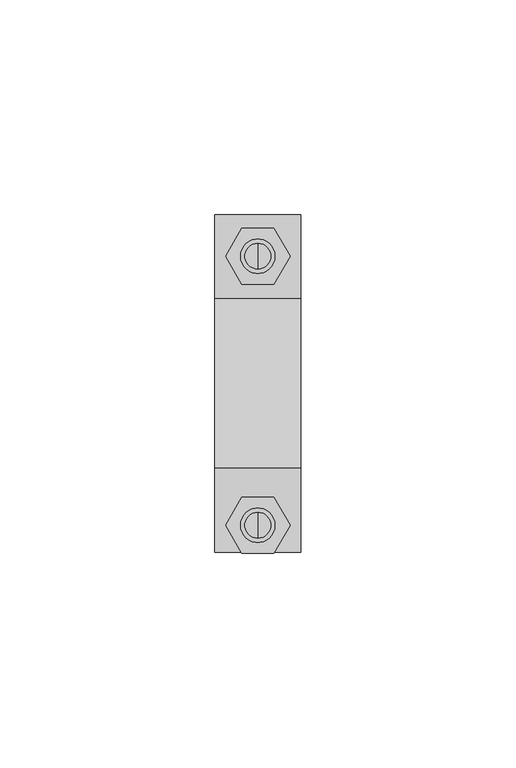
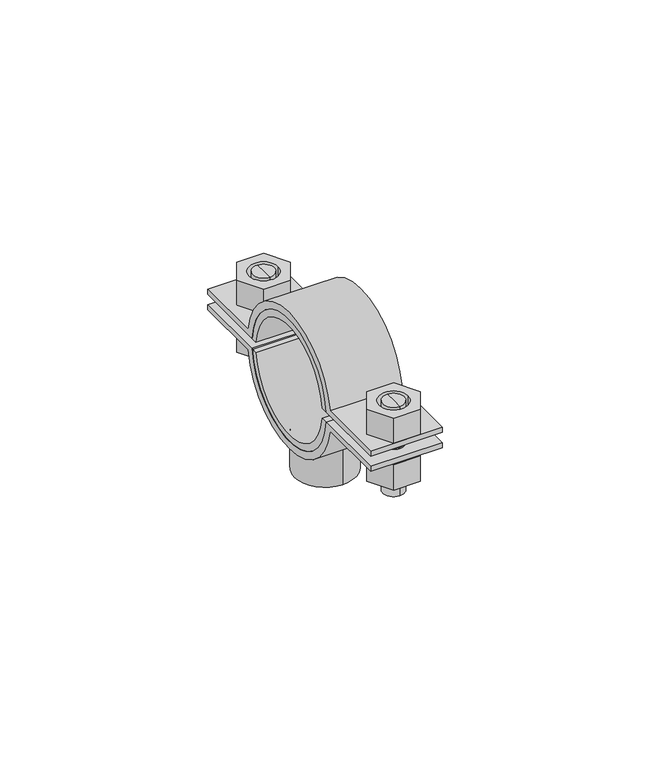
"""IFC4 building model written with IfcOpenShell, lengths in millimetres: valve geometry, Superfix DG2 Clamp Extra : Superfix DG2 Clamp Extra."""

from ifc_helpers import new_model, si_unit, point, frame, frame_2d, origin, origin_2d, place, context, project, spatial, polyline, circle_curve, trimmed, segment, composite_curve, outline, extrude, source, transform, mapped, element, save
from ifc_brep_helpers import plane_surface, cylinder_surface, advanced_brep


def valve_55d09bba(model_context):
    return source(origin(), model_context, "Body", "SolidModel", [
        advanced_brep(
        [(0.0, 32.625, 334.4), (0.0, 26.625, 334.4), (0.0, 26.625, 348.5), (0.0, 32.625, 348.5), (0.0, 29.625, 334.4)],
        [
            (0, 1, circle_curve(frame((0.0, 29.625, 334.4), z_axis=(0.0, 0.0, 1.0), x_axis=(0.0, 1.0, 0.0)), 3.0)),
            (1, 2),
            (2, 3, circle_curve(frame((0.0, 29.625, 348.5), z_axis=(0.0, 0.0, -1.0), x_axis=(0.0, 1.0, 0.0)), 3.0)),
            (3, 0),
            (1, 0, circle_curve(frame((0.0, 29.625, 334.4), z_axis=(0.0, 0.0, 1.0), x_axis=(0.0, 1.0, 0.0)), 3.0)),
            (3, 2, circle_curve(frame((0.0, 29.625, 348.5), z_axis=(0.0, 0.0, -1.0), x_axis=(0.0, 1.0, 0.0)), 3.0)),
            (0, 4),
            (4, 1),
        ],
        [
            cylinder_surface(frame((0.0, 29.625, 348.2806094), z_axis=(0.0, 0.0, 1.0), x_axis=(0.0, 1.0, 0.0)), 3.0),
            plane_surface(frame((0.0, 29.625, 334.4), z_axis=(0.0, 0.0, -1.0), x_axis=(0.0, 1.0, 0.0))),
            plane_surface(frame((13.75, -39.25, 348.5), z_axis=(0.0, 0.0, 1.0), x_axis=(-1.0, 0.0, 0.0))),
        ],
        [
            (0, [[1, 2, 3, 4]]),
            (0, [[5, -4, 6, -2]]),
            (1, [[-1, 7, 8]]),
            (1, [[-5, -8, -7]]),
            (2, [[-3, -6]]),
        ],
    ),
        advanced_brep(
        [(0.0, 26.625, 360.6), (0.0, 32.625, 360.6), (0.0, 32.625, 351.5), (0.0, 26.625, 351.5), (0.0, 29.625, 360.6)],
        [
            (0, 1, circle_curve(frame((0.0, 29.625, 360.6), z_axis=(0.0, 0.0, -1.0), x_axis=(0.0, 1.0, 0.0)), 3.0)),
            (1, 2),
            (2, 3, circle_curve(frame((0.0, 29.625, 351.5), z_axis=(0.0, 0.0, 1.0), x_axis=(0.0, 1.0, 0.0)), 3.0)),
            (3, 0),
            (1, 0, circle_curve(frame((0.0, 29.625, 360.6), z_axis=(0.0, 0.0, -1.0), x_axis=(0.0, 1.0, 0.0)), 3.0)),
            (3, 2, circle_curve(frame((0.0, 29.625, 351.5), z_axis=(0.0, 0.0, 1.0), x_axis=(0.0, 1.0, 0.0)), 3.0)),
            (0, 4),
            (4, 1),
        ],
        [
            cylinder_surface(frame((0.0, 29.625, 348.2806094), z_axis=(0.0, 0.0, 1.0), x_axis=(0.0, 1.0, 0.0)), 3.0),
            plane_surface(frame((0.0, 29.625, 360.6), z_axis=(0.0, 0.0, 1.0), x_axis=(0.0, 1.0, 0.0))),
            plane_surface(frame((13.75, 39.25, 351.5), z_axis=(0.0, 0.0, -1.0), x_axis=(-1.0, 0.0, 0.0))),
        ],
        [
            (0, [[1, 2, 3, 4]]),
            (0, [[5, -4, 6, -2]]),
            (1, [[-1, 7, 8]]),
            (1, [[-5, -8, -7]]),
            (2, [[-3, -6]]),
        ],
    ),
        advanced_brep(
        [(0.0, -36.0, 360.6), (0.0, -30.0, 360.6), (0.0, -30.0, 351.5), (0.0, -36.0, 351.5), (0.0, -33.0, 360.6)],
        [
            (0, 1, circle_curve(frame((0.0, -33.0, 360.6), z_axis=(0.0, 0.0, -1.0), x_axis=(0.0, -1.0, 0.0)), 3.0)),
            (1, 2),
            (2, 3, circle_curve(frame((0.0, -33.0, 351.5), z_axis=(0.0, 0.0, 1.0), x_axis=(0.0, -1.0, 0.0)), 3.0)),
            (3, 0),
            (1, 0, circle_curve(frame((0.0, -33.0, 360.6), z_axis=(0.0, 0.0, -1.0), x_axis=(0.0, -1.0, 0.0)), 3.0)),
            (3, 2, circle_curve(frame((0.0, -33.0, 351.5), z_axis=(0.0, 0.0, 1.0), x_axis=(0.0, -1.0, 0.0)), 3.0)),
            (0, 4),
            (4, 1),
        ],
        [
            cylinder_surface(frame((0.0, -33.0, 348.2806094), z_axis=(0.0, 0.0, -1.0), x_axis=(0.0, -1.0, 0.0)), 3.0),
            plane_surface(frame((0.0, -33.0, 360.6), z_axis=(0.0, 0.0, 1.0), x_axis=(0.0, -1.0, 0.0))),
            plane_surface(frame((13.75, 39.25, 351.5), z_axis=(0.0, 0.0, -1.0), x_axis=(-1.0, 0.0, 0.0))),
        ],
        [
            (0, [[1, 2, 3, 4]]),
            (0, [[5, -4, 6, -2]]),
            (1, [[-1, 7, 8]]),
            (1, [[-5, -8, -7]]),
            (2, [[-3, -6]]),
        ],
    ),
        advanced_brep(
        [(0.0, -30.0, 334.4), (0.0, -36.0, 334.4), (0.0, -36.0, 348.5), (0.0, -30.0, 348.5), (0.0, -33.0, 334.4)],
        [
            (0, 1, circle_curve(frame((0.0, -33.0, 334.4), z_axis=(0.0, 0.0, 1.0), x_axis=(0.0, -1.0, 0.0)), 3.0)),
            (1, 2),
            (2, 3, circle_curve(frame((0.0, -33.0, 348.5), z_axis=(0.0, 0.0, -1.0), x_axis=(0.0, -1.0, 0.0)), 3.0)),
            (3, 0),
            (1, 0, circle_curve(frame((0.0, -33.0, 334.4), z_axis=(0.0, 0.0, 1.0), x_axis=(0.0, -1.0, 0.0)), 3.0)),
            (3, 2, circle_curve(frame((0.0, -33.0, 348.5), z_axis=(0.0, 0.0, -1.0), x_axis=(0.0, -1.0, 0.0)), 3.0)),
            (0, 4),
            (4, 1),
        ],
        [
            cylinder_surface(frame((0.0, -33.0, 348.2806094), z_axis=(0.0, 0.0, -1.0), x_axis=(0.0, -1.0, 0.0)), 3.0),
            plane_surface(frame((0.0, -33.0, 334.4), z_axis=(0.0, 0.0, -1.0), x_axis=(0.0, -1.0, 0.0))),
            plane_surface(frame((13.75, -39.25, 348.5), z_axis=(0.0, 0.0, 1.0), x_axis=(-1.0, 0.0, 0.0))),
        ],
        [
            (0, [[1, 2, 3, 4]]),
            (0, [[5, -4, 6, -2]]),
            (1, [[-1, 7, 8]]),
            (1, [[-5, -8, -7]]),
            (2, [[-3, -6]]),
        ],
    ),
        extrude(outline(composite_curve([segment(trimmed(circle_curve(frame_2d((0.0, 350.0)), 18.0), [point((-17.9373911, 348.5))], [point((17.9373911, 348.5))], True, "CARTESIAN"), True, "CONTINUOUS"), segment(polyline([(17.9373911, 348.5), (39.25, 348.5), (39.25, 347.0), (19.7737199, 347.0)]), True, "CONTINUOUS"), segment(trimmed(circle_curve(frame_2d((0.0, 350.0)), 20.0), [point((19.7737199, 347.0))], [point((-19.7737199, 347.0))], False, "CARTESIAN"), True, "CONTINUOUS"), segment(polyline([(-19.7737199, 347.0), (-39.25, 347.0), (-39.25, 348.5), (-17.9373911, 348.5)]), True, "CONTINUOUS")], self_intersect=False)), frame((-10.0, 0.0, 0.0), z_axis=(1.0, 0.0, 0.0), x_axis=(0.0, 1.0, 0.0)), (0.0, 0.0, 1.0), 20.0),
        extrude(outline(composite_curve([segment(trimmed(circle_curve(frame_2d((0.0, 350.0)), 18.0), [point((17.9373911, 351.5))], [point((-17.9373911, 351.5))], True, "CARTESIAN"), True, "CONTINUOUS"), segment(polyline([(-17.9373911, 351.5), (-39.25, 351.5), (-39.25, 353.0), (-19.7737199, 353.0)]), True, "CONTINUOUS"), segment(trimmed(circle_curve(frame_2d((0.0, 350.0)), 20.0), [point((-19.7737199, 353.0))], [point((19.7737199, 353.0))], False, "CARTESIAN"), True, "CONTINUOUS"), segment(polyline([(19.7737199, 353.0), (39.25, 353.0), (39.25, 351.5), (17.9373911, 351.5)]), True, "CONTINUOUS")], self_intersect=False)), frame((-10.0, 0.0, 0.0), z_axis=(1.0, 0.0, 0.0), x_axis=(0.0, 1.0, 0.0)), (0.0, 0.0, 1.0), 20.0),
        extrude(outline(polyline([(7.5055535, -33.0), (3.7527767, -39.5), (-3.7527767, -39.5), (-7.5055535, -33.0), (-3.7527767, -26.5), (3.7527767, -26.5), (7.5055535, -33.0)]), holes=[composite_curve([segment(trimmed(circle_curve(frame_2d((0.0, -33.0)), 4.0), [point((4.0, -33.0))], [point((-4.0, -33.0))], True, "CARTESIAN"), True, "CONTINUOUS"), segment(trimmed(circle_curve(frame_2d((0.0, -33.0)), 4.0), [point((-4.0, -33.0))], [point((4.0, -33.0))], True, "CARTESIAN"), True, "CONTINUOUS")], self_intersect=False)]), frame((0.0, 0.0, 353.0), z_axis=(0.0, 0.0, 1.0), x_axis=(1.0, 0.0, 0.0)), (0.0, 0.0, 1.0), 7.6),
        extrude(outline(polyline([(7.5055535, 29.625), (3.7527767, 23.125), (-3.7527767, 23.125), (-7.5055535, 29.625), (-3.7527767, 36.125), (3.7527767, 36.125), (7.5055535, 29.625)]), holes=[composite_curve([segment(trimmed(circle_curve(frame_2d((0.0, 29.625)), 4.0), [point((4.0, 29.625))], [point((-4.0, 29.625))], True, "CARTESIAN"), True, "CONTINUOUS"), segment(trimmed(circle_curve(frame_2d((0.0, 29.625)), 4.0), [point((-4.0, 29.625))], [point((4.0, 29.625))], True, "CARTESIAN"), True, "CONTINUOUS")], self_intersect=False)]), frame((0.0, 0.0, 353.0), z_axis=(0.0, 0.0, 1.0), x_axis=(1.0, 0.0, 0.0)), (0.0, 0.0, 1.0), 7.6),
        extrude(outline(polyline([(7.5055535, -33.0), (3.7527767, -39.5), (-3.7527767, -39.5), (-7.5055535, -33.0), (-3.7527767, -26.5), (3.7527767, -26.5), (7.5055535, -33.0)]), holes=[composite_curve([segment(trimmed(circle_curve(frame_2d((0.0, -33.0)), 4.0), [point((4.0, -33.0))], [point((-4.0, -33.0))], True, "CARTESIAN"), True, "CONTINUOUS"), segment(trimmed(circle_curve(frame_2d((0.0, -33.0)), 4.0), [point((-4.0, -33.0))], [point((4.0, -33.0))], True, "CARTESIAN"), True, "CONTINUOUS")], self_intersect=False)]), frame((0.0, 0.0, 339.4), z_axis=(0.0, 0.0, 1.0), x_axis=(1.0, 0.0, 0.0)), (0.0, 0.0, 1.0), 7.6),
        extrude(outline(polyline([(7.5055535, 29.625), (3.7527767, 23.125), (-3.7527767, 23.125), (-7.5055535, 29.625), (-3.7527767, 36.125), (3.7527767, 36.125), (7.5055535, 29.625)]), holes=[composite_curve([segment(trimmed(circle_curve(frame_2d((0.0, 29.625)), 4.0), [point((4.0, 29.625))], [point((-4.0, 29.625))], True, "CARTESIAN"), True, "CONTINUOUS"), segment(trimmed(circle_curve(frame_2d((0.0, 29.625)), 4.0), [point((-4.0, 29.625))], [point((4.0, 29.625))], True, "CARTESIAN"), True, "CONTINUOUS")], self_intersect=False)]), frame((0.0, 0.0, 339.4), z_axis=(0.0, 0.0, 1.0), x_axis=(1.0, 0.0, 0.0)), (0.0, 0.0, 1.0), 7.6),
        extrude(outline(composite_curve([segment(trimmed(circle_curve(origin_2d(), 8.5), [point((0.0, 8.5))], [point((0.0, -8.5))], False, "CARTESIAN"), True, "CONTINUOUS"), segment(trimmed(circle_curve(origin_2d(), 8.5), [point((0.0, -8.5))], [point((0.0, 8.5))], False, "CARTESIAN"), True, "CONTINUOUS")], self_intersect=False), holes=[composite_curve([segment(trimmed(circle_curve(origin_2d(), 5.0), [point((0.0, 5.0))], [point((0.0, -5.0))], True, "CARTESIAN"), True, "CONTINUOUS"), segment(trimmed(circle_curve(origin_2d(), 5.0), [point((0.0, -5.0))], [point((0.0, 5.0))], True, "CARTESIAN"), True, "CONTINUOUS")], self_intersect=False)]), frame((0.0, 0.0, 321.0), z_axis=(0.0, 0.0, 1.0), x_axis=(1.0, 0.0, 0.0)), (0.0, 0.0, 1.0), 11.5),
        extrude(outline(composite_curve([segment(trimmed(circle_curve(frame_2d((0.0, 350.0)), 16.0), [point((15.9295323, 351.5))], [point((-15.9295323, 351.5))], True, "CARTESIAN"), True, "CONTINUOUS"), segment(polyline([(-15.9295323, 351.5), (-17.9373911, 351.5)]), True, "CONTINUOUS"), segment(trimmed(circle_curve(frame_2d((0.0, 350.0)), 18.0), [point((-17.9373911, 351.5))], [point((17.9373911, 351.5))], False, "CARTESIAN"), True, "CONTINUOUS"), segment(polyline([(17.9373911, 351.5), (15.9295323, 351.5)]), True, "CONTINUOUS")], self_intersect=False)), frame((-10.0, 0.0, 0.0), z_axis=(1.0, 0.0, 0.0), x_axis=(0.0, 1.0, 0.0)), (0.0, 0.0, 1.0), 20.0),
        extrude(outline(composite_curve([segment(polyline([(15.9295323, 348.5), (17.9373911, 348.5)]), True, "CONTINUOUS"), segment(trimmed(circle_curve(frame_2d((0.0, 350.0)), 18.0), [point((17.9373911, 348.5))], [point((-17.9373911, 348.5))], False, "CARTESIAN"), True, "CONTINUOUS"), segment(polyline([(-17.9373911, 348.5), (-15.9295323, 348.5)]), True, "CONTINUOUS"), segment(trimmed(circle_curve(frame_2d((0.0, 350.0)), 16.0), [point((-15.9295323, 348.5))], [point((15.9295323, 348.5))], True, "CARTESIAN"), True, "CONTINUOUS")], self_intersect=False)), frame((-10.0, 0.0, 0.0), z_axis=(1.0, 0.0, 0.0), x_axis=(0.0, 1.0, 0.0)), (0.0, 0.0, 1.0), 20.0),
    ])


if __name__ == "__main__":
    model = new_model("IFC4")
    model_context = context("Model", 3, world=origin())
    ifc_project = project(units=[si_unit("LENGTHUNIT", "METRE", prefix="MILLI")], contexts=[model_context])
    site = spatial("IfcSite", under=ifc_project)
    building = spatial("IfcBuilding", under=site)
    placement = place(None, origin())
    valve_shape = valve_55d09bba(model_context)
    element("IfcValve", 1, ObjectType="Superfix DG2 Clamp Extra : Superfix DG2 Clamp Extra", at=placement, inside=building, context=model_context, shape_type="MappedRepresentation", body=[
        mapped(valve_shape, transform((0.0, 0.0, 0.0), x_axis=(1.0, 0.0, 0.0), y_axis=(0.0, 1.0, 0.0), z_axis=(0.0, 0.0, 1.0))),
    ])
    save(model, "model.ifc")
